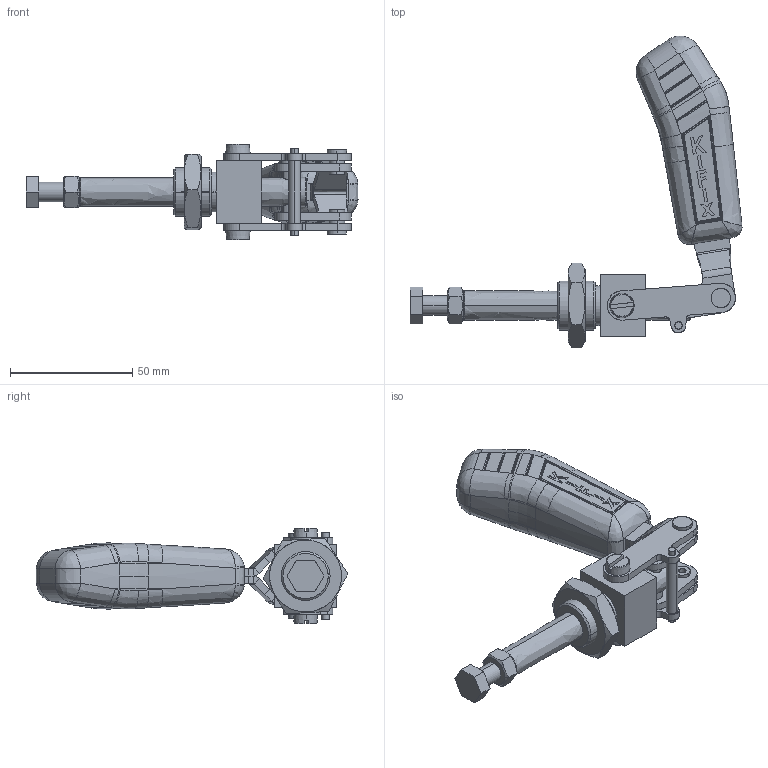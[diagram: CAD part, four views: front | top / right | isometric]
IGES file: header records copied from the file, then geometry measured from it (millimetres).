
Start section: SolidWorks IGES file using analytic representation for surfaces
Global section: file name: C:\Projetos\Grampos\KF-006\KF-006\KF-006.IGS; native system: SolidWorks 2013; preprocessor: SolidWorks 2013; author: Ricardo; date: 140826.143154; units: millimetre
Bounding box: 135.82 x 127.51 x 39.2 mm (x, y, z)
Surface area: 40164.1 mm2 (no closed solid volume)
Topology: 0 solids, 0 shells, 581 faces, 6787 edges, 6776 vertices
Faces by surface type: bspline 380, revolution 201
